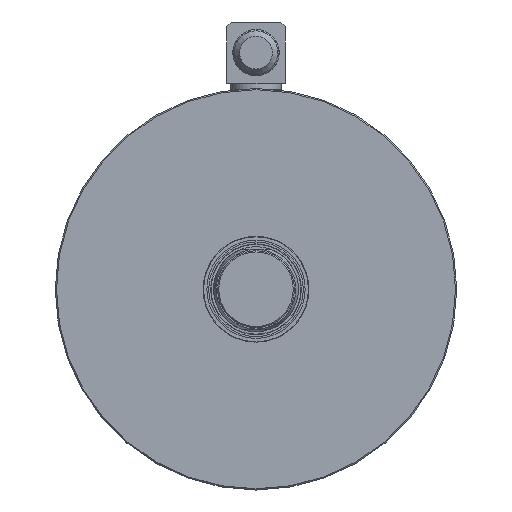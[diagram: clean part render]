
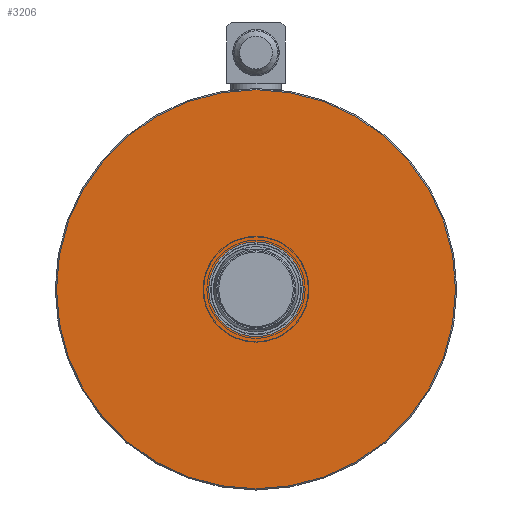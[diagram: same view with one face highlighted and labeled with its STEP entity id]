
A CAD part, left-side view. The second image highlights one B-rep face of the part: STEP entity #3206.
In plain terms, the highlighted planar face has unit normal (-1, 0, 0).
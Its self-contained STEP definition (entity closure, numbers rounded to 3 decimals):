
#162=FACE_BOUND('',#594,.T.);
#222=PLANE('',#3535);
#368=FACE_OUTER_BOUND('',#593,.T.);
#593=EDGE_LOOP('',(#2388));
#594=EDGE_LOOP('',(#2389));
#1169=CIRCLE('',#3536,82.2);
#1170=CIRCLE('',#3537,19.5);
#1394=VERTEX_POINT('',#5372);
#1395=VERTEX_POINT('',#5374);
#1742=EDGE_CURVE('',#1394,#1394,#1169,.T.);
#1743=EDGE_CURVE('',#1395,#1395,#1170,.T.);
#2388=ORIENTED_EDGE('',*,*,#1742,.F.);
#2389=ORIENTED_EDGE('',*,*,#1743,.T.);
#3206=ADVANCED_FACE('',(#368,#162),#222,.F.);
#3535=AXIS2_PLACEMENT_3D('',#5371,#4225,#4226);
#3536=AXIS2_PLACEMENT_3D('',#5373,#4227,#4228);
#3537=AXIS2_PLACEMENT_3D('',#5375,#4229,#4230);
#4225=DIRECTION('center_axis',(1.,0.,0.));
#4226=DIRECTION('ref_axis',(0.,0.,1.));
#4227=DIRECTION('center_axis',(1.,0.,0.));
#4228=DIRECTION('ref_axis',(0.,1.,0.));
#4229=DIRECTION('center_axis',(1.,0.,0.));
#4230=DIRECTION('ref_axis',(0.,0.,-1.));
#5371=CARTESIAN_POINT('Origin',(-430.75,0.,0.));
#5372=CARTESIAN_POINT('',(-430.75,-82.2,0.));
#5373=CARTESIAN_POINT('Origin',(-430.75,0.,0.));
#5374=CARTESIAN_POINT('',(-430.75,0.,19.5));
#5375=CARTESIAN_POINT('Origin',(-430.75,0.,0.));
